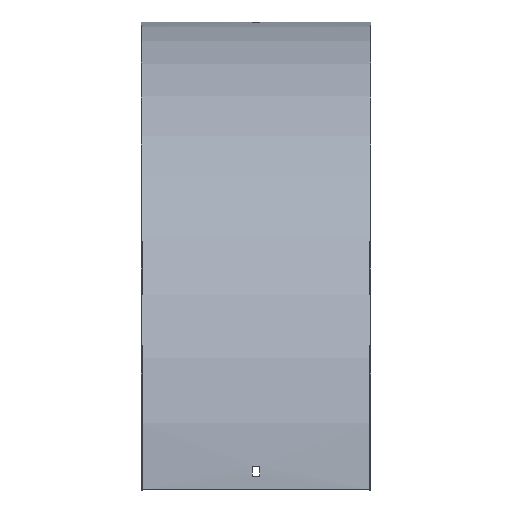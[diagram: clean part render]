
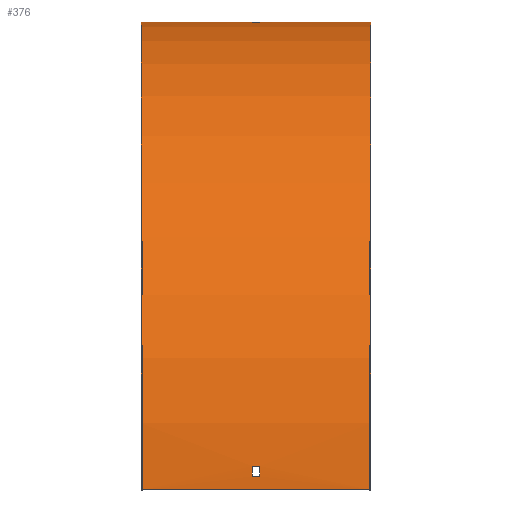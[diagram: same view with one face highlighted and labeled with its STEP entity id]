
A CAD part, top view. The second image highlights one B-rep face of the part: STEP entity #376.
In plain terms, the highlighted cylindrical face has radius 414 mm (diameter 828 mm), a partial arc.
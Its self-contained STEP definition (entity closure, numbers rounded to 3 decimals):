
#1 = CIRCLE ( 'NONE', #238, 414. ) ;
#8 = LINE ( 'NONE', #526, #49 ) ;
#10 = VECTOR ( 'NONE', #504, 1000. ) ;
#11 = LINE ( 'NONE', #285, #209 ) ;
#12 = VERTEX_POINT ( 'NONE', #306 ) ;
#15 = ORIENTED_EDGE ( 'NONE', *, *, #605, .T. ) ;
#18 = DIRECTION ( 'NONE',  ( -1., 0., 0. ) ) ;
#29 = ORIENTED_EDGE ( 'NONE', *, *, #440, .T. ) ;
#41 = CARTESIAN_POINT ( 'NONE',  ( 3.25, -0.533, 21. ) ) ;
#45 = EDGE_LOOP ( 'NONE', ( #146, #361, #29, #312 ) ) ;
#46 = EDGE_CURVE ( 'NONE', #364, #513, #178, .T. ) ;
#49 = VECTOR ( 'NONE', #242, 1000. ) ;
#54 = CARTESIAN_POINT ( 'NONE',  ( 101.5, -414., 414. ) ) ;
#55 = VERTEX_POINT ( 'NONE', #586 ) ;
#57 = CIRCLE ( 'NONE', #133, 414. ) ;
#58 = DIRECTION ( 'NONE',  ( 0., 0., 1. ) ) ;
#75 = VERTEX_POINT ( 'NONE', #171 ) ;
#80 = ORIENTED_EDGE ( 'NONE', *, *, #590, .F. ) ;
#81 = EDGE_CURVE ( 'NONE', #323, #75, #317, .T. ) ;
#86 = CARTESIAN_POINT ( 'NONE',  ( -101.5, -414., 414. ) ) ;
#93 = LINE ( 'NONE', #561, #476 ) ;
#94 = VERTEX_POINT ( 'NONE', #303 ) ;
#103 = LINE ( 'NONE', #54, #328 ) ;
#115 = DIRECTION ( 'NONE',  ( 1., 0., 0. ) ) ;
#117 = CARTESIAN_POINT ( 'NONE',  ( 101.5, -414., 414. ) ) ;
#127 = CARTESIAN_POINT ( 'NONE',  ( 3.25, -414., 0. ) ) ;
#133 = AXIS2_PLACEMENT_3D ( 'NONE', #340, #152, #488 ) ;
#144 = CIRCLE ( 'NONE', #221, 414. ) ;
#145 = DIRECTION ( 'NONE',  ( 1., 0., 0. ) ) ;
#146 = ORIENTED_EDGE ( 'NONE', *, *, #538, .T. ) ;
#152 = DIRECTION ( 'NONE',  ( 1., 0., 0. ) ) ;
#153 = EDGE_CURVE ( 'NONE', #513, #12, #57, .T. ) ;
#171 = CARTESIAN_POINT ( 'NONE',  ( -101.5, 0., 0. ) ) ;
#177 = ORIENTED_EDGE ( 'NONE', *, *, #46, .F. ) ;
#178 = LINE ( 'NONE', #539, #10 ) ;
#182 = VECTOR ( 'NONE', #583, 1000. ) ;
#184 = DIRECTION ( 'NONE',  ( 0., 0., 1. ) ) ;
#188 = FACE_BOUND ( 'NONE', #45, .T. ) ;
#193 = DIRECTION ( 'NONE',  ( 0., 0., 1. ) ) ;
#197 = EDGE_CURVE ( 'NONE', #12, #315, #8, .T. ) ;
#202 = ORIENTED_EDGE ( 'NONE', *, *, #585, .F. ) ;
#209 = VECTOR ( 'NONE', #525, 1000. ) ;
#211 = CARTESIAN_POINT ( 'NONE',  ( 101.5, 0., 0. ) ) ;
#220 = CARTESIAN_POINT ( 'NONE',  ( 101.5, 0., 0. ) ) ;
#221 = AXIS2_PLACEMENT_3D ( 'NONE', #360, #115, #591 ) ;
#226 = VERTEX_POINT ( 'NONE', #117 ) ;
#230 = FACE_BOUND ( 'NONE', #602, .T. ) ;
#234 = ORIENTED_EDGE ( 'NONE', *, *, #153, .F. ) ;
#238 = AXIS2_PLACEMENT_3D ( 'NONE', #127, #505, #462 ) ;
#242 = DIRECTION ( 'NONE',  ( 1., 0., 0. ) ) ;
#248 = AXIS2_PLACEMENT_3D ( 'NONE', #567, #289, #193 ) ;
#265 = CARTESIAN_POINT ( 'NONE',  ( 3.25, -393., 413.467 ) ) ;
#267 = ORIENTED_EDGE ( 'NONE', *, *, #197, .F. ) ;
#285 = CARTESIAN_POINT ( 'NONE',  ( 101.5, -0.533, 21. ) ) ;
#289 = DIRECTION ( 'NONE',  ( -1., 0., 0. ) ) ;
#303 = CARTESIAN_POINT ( 'NONE',  ( 3.25, -0.174, 12. ) ) ;
#306 = CARTESIAN_POINT ( 'NONE',  ( -3.25, -402., 413.826 ) ) ;
#312 = ORIENTED_EDGE ( 'NONE', *, *, #373, .T. ) ;
#315 = VERTEX_POINT ( 'NONE', #509 ) ;
#317 = LINE ( 'NONE', #220, #182 ) ;
#323 = VERTEX_POINT ( 'NONE', #211 ) ;
#328 = VECTOR ( 'NONE', #450, 1000. ) ;
#340 = CARTESIAN_POINT ( 'NONE',  ( -3.25, -414., 0. ) ) ;
#346 = CIRCLE ( 'NONE', #432, 414. ) ;
#357 = VERTEX_POINT ( 'NONE', #405 ) ;
#360 = CARTESIAN_POINT ( 'NONE',  ( 101.5, -414., 0. ) ) ;
#361 = ORIENTED_EDGE ( 'NONE', *, *, #562, .T. ) ;
#363 = EDGE_LOOP ( 'NONE', ( #15, #202, #80, #413 ) ) ;
#364 = VERTEX_POINT ( 'NONE', #265 ) ;
#373 = EDGE_CURVE ( 'NONE', #94, #416, #1, .T. ) ;
#375 = ORIENTED_EDGE ( 'NONE', *, *, #458, .F. ) ;
#376 = ADVANCED_FACE ( 'NONE', ( #601, #188, #230 ), #520, .T. ) ;
#379 = CIRCLE ( 'NONE', #471, 414. ) ;
#405 = CARTESIAN_POINT ( 'NONE',  ( -3.25, -0.174, 12. ) ) ;
#409 = DIRECTION ( 'NONE',  ( 1., 0., 0. ) ) ;
#413 = ORIENTED_EDGE ( 'NONE', *, *, #81, .T. ) ;
#416 = VERTEX_POINT ( 'NONE', #41 ) ;
#422 = DIRECTION ( 'NONE',  ( -1., 0., 0. ) ) ;
#432 = AXIS2_PLACEMENT_3D ( 'NONE', #477, #18, #58 ) ;
#440 = EDGE_CURVE ( 'NONE', #357, #94, #93, .T. ) ;
#445 = VERTEX_POINT ( 'NONE', #86 ) ;
#450 = DIRECTION ( 'NONE',  ( -1., 0., 0. ) ) ;
#458 = EDGE_CURVE ( 'NONE', #315, #364, #346, .T. ) ;
#462 = DIRECTION ( 'NONE',  ( 0., 0., -1. ) ) ;
#471 = AXIS2_PLACEMENT_3D ( 'NONE', #489, #409, #545 ) ;
#476 = VECTOR ( 'NONE', #145, 1000. ) ;
#477 = CARTESIAN_POINT ( 'NONE',  ( 3.25, -414., 0. ) ) ;
#486 = CARTESIAN_POINT ( 'NONE',  ( -3.25, -393., 413.467 ) ) ;
#488 = DIRECTION ( 'NONE',  ( 0., 1., 0. ) ) ;
#489 = CARTESIAN_POINT ( 'NONE',  ( -101.5, -414., 0. ) ) ;
#496 = AXIS2_PLACEMENT_3D ( 'NONE', #564, #422, #184 ) ;
#504 = DIRECTION ( 'NONE',  ( -1., 0., 0. ) ) ;
#505 = DIRECTION ( 'NONE',  ( 1., 0., 0. ) ) ;
#509 = CARTESIAN_POINT ( 'NONE',  ( 3.25, -402., 413.826 ) ) ;
#513 = VERTEX_POINT ( 'NONE', #486 ) ;
#517 = CIRCLE ( 'NONE', #248, 414. ) ;
#520 = CYLINDRICAL_SURFACE ( 'NONE', #496, 414. ) ;
#525 = DIRECTION ( 'NONE',  ( -1., 0., 0. ) ) ;
#526 = CARTESIAN_POINT ( 'NONE',  ( 101.5, -402., 413.826 ) ) ;
#538 = EDGE_CURVE ( 'NONE', #416, #55, #11, .T. ) ;
#539 = CARTESIAN_POINT ( 'NONE',  ( 101.5, -393., 413.467 ) ) ;
#545 = DIRECTION ( 'NONE',  ( 0., 0., -1. ) ) ;
#561 = CARTESIAN_POINT ( 'NONE',  ( 101.5, -0.174, 12. ) ) ;
#562 = EDGE_CURVE ( 'NONE', #55, #357, #517, .T. ) ;
#564 = CARTESIAN_POINT ( 'NONE',  ( 101.5, -414., 0. ) ) ;
#567 = CARTESIAN_POINT ( 'NONE',  ( -3.25, -414., 0. ) ) ;
#583 = DIRECTION ( 'NONE',  ( -1., 0., 0. ) ) ;
#585 = EDGE_CURVE ( 'NONE', #226, #445, #103, .T. ) ;
#586 = CARTESIAN_POINT ( 'NONE',  ( -3.25, -0.533, 21. ) ) ;
#590 = EDGE_CURVE ( 'NONE', #323, #226, #144, .T. ) ;
#591 = DIRECTION ( 'NONE',  ( 0., 0., -1. ) ) ;
#601 = FACE_OUTER_BOUND ( 'NONE', #363, .T. ) ;
#602 = EDGE_LOOP ( 'NONE', ( #234, #177, #375, #267 ) ) ;
#605 = EDGE_CURVE ( 'NONE', #75, #445, #379, .T. ) ;
